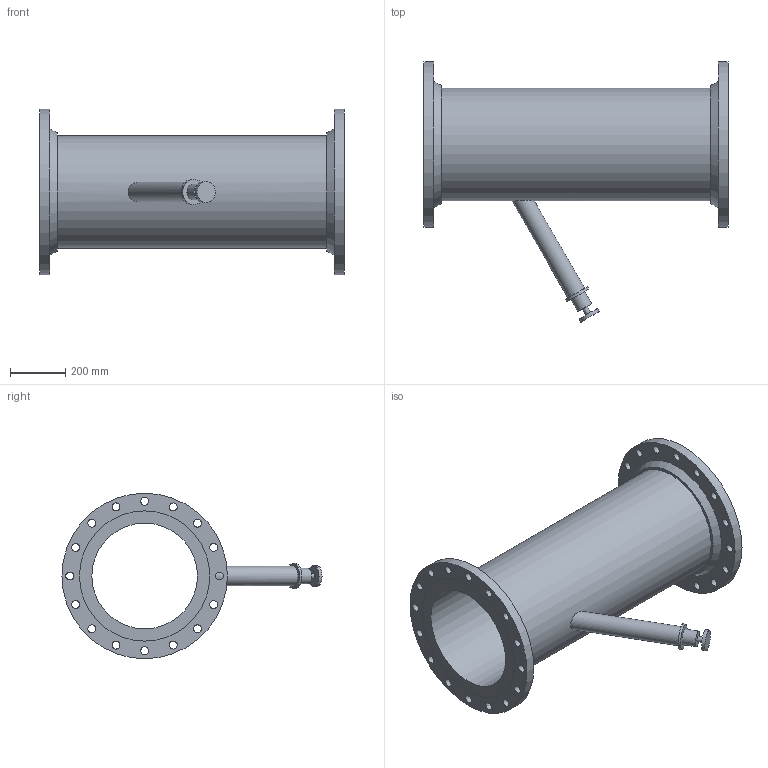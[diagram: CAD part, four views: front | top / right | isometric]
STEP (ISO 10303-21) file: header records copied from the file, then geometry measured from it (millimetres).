
FILE_DESCRIPTION(/* description */ ('VIC TA CIRCUIT BALANCING VALVE SERIES 788 (FLG)','CAx-IF Rec.Pracs.---Representation and Presentation of Product Manufacturing Information (PMI)---4.0---2014-10-13'),/* implementation_level */ '2;1');
FILE_NAME(/* name */ 'C:\Users\Vjadhav\AppData\Roaming\Autodesk\ApplicationPlugins\Back Up\Victaulic-IPS-TA Balancing Valve Series 788\Victaulic-IPS-TA Balancing Valve Series 788_16 (400).stp',/* time_stamp */ '2020-03-19T19:19:56+06:00',/* author */ ('cps_temp'),/* organization */ ('Victaulic'),/* preprocessor_version */ 'ST-DEVELOPER v17.2',/* originating_system */ 'Autodesk Inventor 2019',/* authorisation */ '');
FILE_SCHEMA (('AP242_MANAGED_MODEL_BASED_3D_ENGINEERING_MIM_LF { 1 0 10303 442 1 1 4 }'));
Length unit declared in the file: inch
Products named in the file (1): 788-16.0
Bounding box: 1100.07 x 938.53 x 596.9 mm (x, y, z)
Volume: 30200348.3 mm3; surface area: 3544233.4 mm2
Topology: 1 solids, 1 shells, 58 faces, 163 edges, 117 vertices
Faces by surface type: cylinder 43, plane 13, cone 2
Full cylindrical faces by diameter (mm): 19.05 x1, 28.702 x32, 57.15 x1, 69.85 x1, 76.2 x1, 92.05 x1, 381 x1, 406.4 x1, 469.9 x2, 596.9 x2
Entity records: 2364 total; most frequent: CARTESIAN_POINT 423, DIRECTION 418, ORIENTED_EDGE 326, AXIS2_PLACEMENT_3D 186, EDGE_CURVE 163, EDGE_LOOP 134, VERTEX_POINT 117, CIRCLE 114
